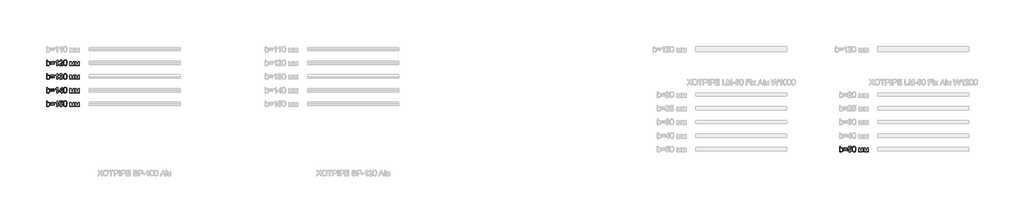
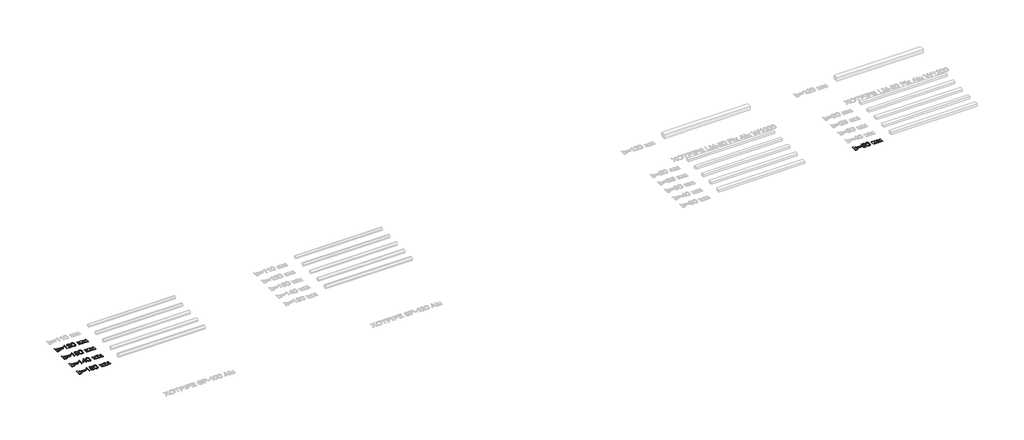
# One storey, part 71 of 86: 5 proxies.
"""IFC4 building model written with IfcOpenShell, lengths in millimetres."""

import ifcopenshell
import ifcopenshell.guid

model = None  # the IFC model being written
_history = None  # IfcOwnerHistory: only IFC2X3 demands one
_inside = {}  # id of a spatial element -> (the spatial element, [elements in it])
_under = {}  # id of a project, library or spatial element -> (it, [spatial elements below it])
_declared = {}  # id of a project -> (the project, [libraries it declares])
_typed = {}  # id of a type object -> (the type object, [elements of that type])
_made_of = {}  # id of a material, layer set ... -> (it, [elements and type objects made of it])


def new_model(schema):
    """Start an empty IFC model of exactly this schema.

    Asked for "IFC4X3", IfcOpenShell would pick the latest addendum, in which some entities
    have other attributes; the version numbers below select the first issue.
    IFC2X3 requires an IfcOwnerHistory on every rooted entity: one is made here for all.
    """
    global model, _history
    if schema == "IFC4X3":
        model = ifcopenshell.file(schema_version=(4, 3, 0, 0))
    else:
        model = ifcopenshell.file(schema=schema)
    _inside.clear()
    _under.clear()
    _declared.clear()
    _typed.clear()
    _made_of.clear()
    _history = None
    if model.schema == "IFC2X3":
        org = make("IfcOrganization", Name="unknown")
        user = make(
            "IfcPersonAndOrganization",
            ThePerson=make("IfcPerson", FamilyName="unknown"),
            TheOrganization=org,
        )
        app = make(
            "IfcApplication",
            ApplicationDeveloper=org,
            Version="unknown",
            ApplicationFullName="unknown",
            ApplicationIdentifier="unknown",
        )
        _history = make(
            "IfcOwnerHistory",
            OwningUser=user,
            OwningApplication=app,
            ChangeAction="ADDED",
            CreationDate=0,
        )
    return model


def make(cls, **values):
    """One entity of the class cls with the attributes given. An attribute that is None is left unset."""
    return model.create_entity(
        cls, **{name: value for name, value in values.items() if value is not None}
    )


def rooted(cls, **values):
    """An entity with a GlobalId (a new one), such as an element, a storey or a relation."""
    return make(cls, GlobalId=ifcopenshell.guid.new(), OwnerHistory=_history, **values)


def si_unit(unit_type, name, prefix=None):
    """IfcSIUnit, for example si_unit("LENGTHUNIT", "METRE", prefix="MILLI")."""
    return make("IfcSIUnit", UnitType=unit_type, Prefix=prefix, Name=name)


def assignment(units):
    """IfcUnitAssignment: the units of a project."""
    return None if units is None else make("IfcUnitAssignment", Units=units)


def point(xyz):
    """IfcCartesianPoint."""
    return None if xyz is None else make("IfcCartesianPoint", Coordinates=xyz)


def direction(xyz):
    """IfcDirection."""
    return None if xyz is None else make("IfcDirection", DirectionRatios=xyz)


def frame(location, z_axis=None, x_axis=None):
    """IfcAxis2Placement3D, a coordinate frame: its origin and axes. An axis left out is left unset."""
    return make(
        "IfcAxis2Placement3D",
        Location=point(location),
        Axis=direction(z_axis),
        RefDirection=direction(x_axis),
    )


def origin():
    """The frame at (0, 0, 0) with its axes left unset."""
    return frame((0.0, 0.0, 0.0))


def origin_with_axes():
    """The frame at (0, 0, 0) with the z axis (0, 0, 1) and the x axis (1, 0, 0) written out."""
    return frame((0.0, 0.0, 0.0), z_axis=(0.0, 0.0, 1.0), x_axis=(1.0, 0.0, 0.0))


def place(relative_to, where):
    """IfcLocalPlacement: puts the frame where relative to a parent placement (None: the world)."""
    return make(
        "IfcLocalPlacement", PlacementRelTo=relative_to, RelativePlacement=where
    )


def context(
    kind, dimensions, precision=None, world=None, true_north=None, identifier=None
):
    """IfcGeometricRepresentationContext, for example the 3D "Model" context."""
    return make(
        "IfcGeometricRepresentationContext",
        ContextIdentifier=identifier,
        ContextType=kind,
        CoordinateSpaceDimension=dimensions,
        Precision=precision,
        WorldCoordinateSystem=world,
        TrueNorth=true_north,
    )


def project(units=None, contexts=None):
    """IfcProject with its units and contexts."""
    return rooted(
        "IfcProject",
        Name="project",
        RepresentationContexts=contexts,
        UnitsInContext=assignment(units),
    )


def spatial(cls, under=None, at=None, **own):
    """A site, building, storey or space (cls), placed at a placement, below another one or the project."""
    s = rooted(cls, ObjectPlacement=at, **own)
    if under is not None:
        _under.setdefault(under.id(), (under, []))[1].append(s)
    return s


def polyline(points):
    """IfcPolyline through the points."""
    return make("IfcPolyline", Points=[point(p) for p in points])


def outline(outer, holes=None, kind="AREA"):
    """IfcArbitraryClosedProfileDef: a profile drawn as a closed curve; with holes, ...WithVoids."""
    if holes is None:
        return make("IfcArbitraryClosedProfileDef", ProfileType=kind, OuterCurve=outer)
    return make(
        "IfcArbitraryProfileDefWithVoids",
        ProfileType=kind,
        OuterCurve=outer,
        InnerCurves=holes,
    )


def extrude(swept, where, along, depth):
    """IfcExtrudedAreaSolid: the profile swept, set in the frame where, extruded along a direction by depth."""
    return make(
        "IfcExtrudedAreaSolid",
        SweptArea=swept,
        Position=where,
        ExtrudedDirection=direction(along),
        Depth=depth,
    )


def shape(context_of_items, identifier, shape_type, items):
    """IfcShapeRepresentation: the items that make up one representation, for example the "Body"."""
    return make(
        "IfcShapeRepresentation",
        ContextOfItems=context_of_items,
        RepresentationIdentifier=identifier,
        RepresentationType=shape_type,
        Items=items,
    )


def made_of(thing, what):
    """Note that an element or type object is made of a material, layer set ...; save() writes the relation."""
    if what is not None:
        _made_of.setdefault(what.id(), (what, []))[1].append(thing)
    return thing


def element(
    cls,
    number,
    at=None,
    inside=None,
    cuts=None,
    type_object=None,
    material=None,
    context=None,
    identifier="Body",
    shape_type=None,
    held_by="IfcProductDefinitionShape",
    body=None,
    shapes=None,
    **own,
):
    """One element of the class cls, such as IfcWall. Its Tag is "e" and its number.

    at: its placement. inside: the storey or other place that contains it. cuts: it is an
    opening in that element (IfcRelVoidsElement). A single representation is given by context,
    identifier, shape_type and body (its items); several are given by shapes. held_by: the class
    of the entity that holds the representations. save() writes the other relations.
    """
    e = rooted(cls, Tag="e%d" % number, ObjectPlacement=at, **own)
    if body is not None:
        shapes = [shape(context, identifier, shape_type, body)]
    if shapes is not None:
        e.Representation = make(held_by, Representations=shapes)
    if inside is not None:
        _inside.setdefault(inside.id(), (inside, []))[1].append(e)
    if cuts is not None:
        rooted(
            "IfcRelVoidsElement", RelatingBuildingElement=cuts, RelatedOpeningElement=e
        )
    if type_object is not None:
        _typed.setdefault(type_object.id(), (type_object, []))[1].append(e)
    return made_of(e, material)


def aggregate(whole, parts):
    """IfcRelAggregates: a whole, such as a stair, and the parts it consists of."""
    return rooted("IfcRelAggregates", RelatingObject=whole, RelatedObjects=parts)


def save(model, path):
    """Write the relations noted so far, then the file.

    IfcRelAggregates (storeys below a building ...), IfcRelContainedInSpatialStructure (elements
    in a storey), IfcRelDefinesByType, IfcRelAssociatesMaterial and IfcRelDeclares: one each for
    every whole, place, type object, material and project.
    """
    for whole, parts in _under.values():
        aggregate(whole, parts)
    for where, things in _inside.values():
        rooted(
            "IfcRelContainedInSpatialStructure",
            RelatedElements=things,
            RelatingStructure=where,
        )
    for kind, things in _typed.values():
        rooted("IfcRelDefinesByType", RelatedObjects=things, RelatingType=kind)
    for what, things in _made_of.values():
        rooted("IfcRelAssociatesMaterial", RelatedObjects=things, RelatingMaterial=what)
    for by, libraries in _declared.values():
        rooted("IfcRelDeclares", RelatingContext=by, RelatedDefinitions=libraries)
    model.write(path)


model = new_model("IFC4")

# Units and contexts
model_context = context("Model", 3, world=origin())
ifc_project = project(units=[si_unit("LENGTHUNIT", "METRE", prefix="MILLI")], contexts=[model_context])

# Site, building, storey
site = spatial("IfcSite", under=ifc_project)
building = spatial("IfcBuilding", under=site)
storey = spatial("IfcBuildingStorey", under=building, Name="Уровень 1", Elevation=0.0)

# Proxies
placement = place(None, origin())
element("IfcBuildingElementProxy", 1, Name="Текст модели 1", ObjectType="Текст модели 1", at=placement, inside=storey, context=model_context, shape_type="SweptSolid", body=[
    extrude(outline(polyline([(22698.159624, 72669.2937088), (22622.8173914, 72669.2937088), (22622.8173914, 73272.0315697), (22698.159624, 73272.0315697), (22698.159624, 73048.5064694), (22722.9364764, 73080.3742473), (22750.9139022, 73103.1369457), (22782.0919012, 73116.7945648), (22816.4704737, 73121.3471045), (22855.2820242, 73117.2452202), (22891.9598591, 73104.9395675), (22924.4070511, 73085.2026984), (22950.5266727, 73058.8071653), (22970.9993058, 73026.0104854), (22986.5055319, 72987.0701762), (22996.2727988, 72943.6049185), (22999.5285545, 72897.233393), (22996.1578357, 72843.7249568), (22986.0456794, 72796.6544555), (22969.1920855, 72756.0218892), (22945.597054, 72721.8272577), (22917.2747389, 72694.7235517), (22886.2392941, 72675.3637617), (22852.4907195, 72663.7478877), (22816.0290153, 72659.8759297), (22780.5192057, 72664.8699278), (22749.037704, 72679.8519221), (22721.5845101, 72704.8219125), (22698.159624, 72739.7798991), (22698.159624, 72669.2937088)]), holes=[polyline([(22698.159624, 72893.7017259), (22703.309972, 72830.8674811), (22709.7479069, 72807.065516), (22718.7610158, 72788.3403224), (22737.0171598, 72765.0993774), (22758.2347539, 72748.4987024), (22782.413798, 72738.5382973), (22809.5542922, 72735.2181623), (22832.0870644, 72737.6645776), (22853.037944, 72745.0038234), (22872.4069311, 72757.2358997), (22890.1940255, 72774.3608066), (22905.0656552, 72796.3325588), (22915.6882478, 72823.105171), (22922.0618034, 72854.6786432), (22924.1863219, 72891.0529755), (22922.1491753, 72928.1170865), (22916.0377357, 72959.9940614), (22905.8520029, 72986.6839001), (22891.5919771, 73008.1866028), (22874.4440776, 73024.7320955), (22855.5947239, 73036.5503046), (22835.0439159, 73043.64123), (22812.7916537, 73046.0048719), (22790.2588815, 73043.5584566), (22769.3080019, 73036.2192108), (22749.9390149, 73023.9871344), (22732.1519204, 73006.8622276), (22717.2802907, 72985.1112046), (22706.6576981, 72959.00078), (22700.2841426, 72928.5309538), (22698.159624, 72893.7017259)])]), origin_with_axes(), (0.0, 0.0, 1.0), 20.0),
    extrude(outline(polyline([(23470.4175083, 73017.7515346), (23074.8707871, 73017.7515346), (23074.8707871, 73093.0937672), (23470.4175083, 73093.0937672), (23470.4175083, 73017.7515346)])), origin_with_axes(), (0.0, 0.0, 1.0), 20.0),
    extrude(outline(polyline([(23470.4175083, 72838.8137322), (23074.8707871, 72838.8137322), (23074.8707871, 72914.1559648), (23470.4175083, 72914.1559648), (23470.4175083, 72838.8137322)])), origin_with_axes(), (0.0, 0.0, 1.0), 20.0),
    extrude(outline(polyline([(23837.7108923, 72669.2937088), (23762.3686597, 72669.2937088), (23762.3686597, 73139.0054402), (23730.9147491, 73113.5664003), (23690.9995526, 73088.1641485), (23649.0977934, 73065.9624701), (23611.6841945, 73050.1251502), (23611.6841945, 73121.3471045), (23670.8580134, 73153.5367791), (23722.1223694, 73191.8332947), (23762.5342066, 73232.5578316), (23789.1504689, 73272.0315697), (23837.7108923, 73272.0315697), (23837.7108923, 72669.2937088)])), origin_with_axes(), (0.0, 0.0, 1.0), 20.0),
    extrude(outline(polyline([(24402.7776369, 72744.6359414), (24402.7776369, 72669.2937088), (24007.2309157, 72669.2937088), (24008.8863847, 72695.8180007), (24015.3243196, 72721.2386465), (24033.9023603, 72761.8344247), (24061.0888398, 72801.2161923), (24100.4154251, 72842.4373698), (24155.4137833, 72888.5513779), (24236.7157043, 72960.7666136), (24285.4968568, 73014.0727147), (24299.724693, 73035.8513288), (24309.8874331, 73057.3356373), (24315.9850772, 73078.5256402), (24318.0176252, 73099.4213376), (24316.1000403, 73119.0800317), (24310.3472856, 73137.1476362), (24300.7593611, 73153.624151), (24287.3362668, 73168.5095763), (24270.8229638, 73180.8382216), (24251.964413, 73189.6443969), (24230.7606145, 73194.928102), (24207.2115683, 73196.6893371), (24182.4025262, 73194.9694888), (24160.2146434, 73189.8099438), (24140.6479198, 73181.2107021), (24123.7023554, 73169.1717638), (24109.9941525, 73154.0977991), (24100.1395136, 73136.3934781), (24094.1384385, 73116.0588008), (24091.9909274, 73093.0937672), (24016.6486948, 73102.5115463), (24023.1280164, 73141.4058703), (24034.9140358, 73175.3889696), (24052.006753, 73204.4608442), (24074.406168, 73228.6214943), (24101.597246, 73247.6134023), (24133.0649521, 73261.1790508), (24168.8092865, 73269.31844), (24208.830249, 73272.0315697), (24249.2098965, 73269.0149373), (24285.1473689, 73259.9650403), (24316.6426663, 73244.8818785), (24343.6957885, 73223.7654519), (24365.4238188, 73198.1792592), (24380.9438405, 73169.6867986), (24390.2558535, 73138.2880704), (24393.3598578, 73103.9830743), (24390.0121317, 73067.9490329), (24379.9689532, 73032.5403908), (24362.1450705, 72996.5247435), (24335.4552318, 72958.6696862), (24292.909679, 72913.4753831), (24227.5186544, 72855.4419984), (24140.8456563, 72782.9692453), (24106.85336, 72744.6359414), (24402.7776369, 72744.6359414)])), origin_with_axes(), (0.0, 0.0, 1.0), 20.0),
    extrude(outline(polyline([(24478.1198695, 72965.8065969), (24483.6564935, 73062.2836501), (24490.5772736, 73103.1967265), (24500.2663656, 73139.2261694), (24512.682383, 73170.6662845), (24527.7839389, 73197.8113772), (24545.5710333, 73220.6614476), (24566.0436664, 73239.2164957), (24589.2708158, 73253.5730906), (24615.3214596, 73263.8278012), (24644.1955977, 73269.9806276), (24675.8932301, 73272.0315697), (24722.3199379, 73267.1755274), (24763.8906034, 73252.6074004), (24798.6554519, 73228.8974058), (24824.664709, 73196.6157607), (24844.3096075, 73156.0383766), (24859.9813805, 73107.4411651), (24870.2452882, 73045.7289604), (24873.6665907, 72965.8065969), (24868.185149, 72869.8813667), (24861.3333468, 72829.106246), (24851.7408238, 72793.1227884), (24839.4213755, 72761.6688778), (24824.3887975, 72734.4823983), (24806.6430897, 72711.56335), (24786.1842523, 72692.9117329), (24762.9295116, 72678.458569), (24736.7960944, 72668.1348805), (24707.7840006, 72661.9406674), (24675.8932301, 72659.8759297), (24634.3961411, 72663.4627792), (24597.6079415, 72674.2233275), (24565.5286316, 72692.1575748), (24538.1582111, 72717.265521), (24511.8914367, 72762.6529621), (24493.1294549, 72819.2056218), (24481.8722659, 72886.9235001), (24478.1198695, 72965.8065969)]), holes=[polyline([(24553.4621021, 72965.9537497), (24555.6693941, 72900.456959), (24562.29127, 72847.440565), (24573.3277299, 72806.9045676), (24588.7787737, 72778.848967), (24607.467179, 72759.7604899), (24628.2157235, 72746.1258635), (24651.0244072, 72737.9450876), (24675.8932301, 72735.2181623), (24700.762053, 72737.9542847), (24723.5707367, 72746.1626517), (24744.3192812, 72759.8432634), (24763.0076866, 72778.9961198), (24778.4587304, 72807.0977057), (24789.4951902, 72847.624506), (24796.1170661, 72900.5765206), (24798.3243581, 72965.9537497), (24796.1906425, 73029.7168965), (24789.7894958, 73081.79979), (24779.120918, 73122.2024301), (24764.184909, 73150.9248169), (24745.8092033, 73170.9467945), (24724.8215355, 73185.248207), (24701.2219055, 73193.8290546), (24675.0103133, 73196.6893371), (24650.2702492, 73194.1693454), (24627.8478415, 73186.6093704), (24607.7430905, 73174.0094121), (24589.955996, 73156.3694704), (24573.9899175, 73125.0995008), (24562.5855756, 73082.9402242), (24555.7429705, 73029.8916405), (24553.4621021, 72965.9537497)])]), origin_with_axes(), (0.0, 0.0, 1.0), 20.0),
    extrude(outline(polyline([(25193.8710793, 73111.9293254), (25323.5126944, 73111.9293254), (25423.4294443, 72757.5853876), (25531.1452925, 73111.9293254), (25655.3422541, 73111.9293254), (25655.3422541, 72669.2937088), (25580.0000215, 72669.2937088), (25580.0000215, 73025.6977857), (25471.6955621, 72669.2937088), (25372.8088818, 72669.2937088), (25269.2133119, 73042.7675103), (25269.2133119, 72669.2937088), (25193.8710793, 72669.2937088), (25193.8710793, 73111.9293254)])), origin_with_axes(), (0.0, 0.0, 1.0), 20.0),
    extrude(outline(polyline([(25768.355603, 73111.9293254), (25897.9972181, 73111.9293254), (25997.913968, 72757.5853876), (26105.6298162, 73111.9293254), (26229.8267777, 73111.9293254), (26229.8267777, 72669.2937088), (26154.4845451, 72669.2937088), (26154.4845451, 73025.6977857), (26046.1800857, 72669.2937088), (25947.2934054, 72669.2937088), (25843.6978356, 73042.7675103), (25843.6978356, 72669.2937088), (25768.355603, 72669.2937088), (25768.355603, 73111.9293254)])), origin_with_axes(), (0.0, 0.0, 1.0), 20.0),
])
element("IfcBuildingElementProxy", 2, Name="Текст модели 1", ObjectType="Текст модели 1", at=placement, inside=storey, context=model_context, shape_type="SweptSolid", body=[
    extrude(outline(polyline([(22698.159624, 71169.2937088), (22622.8173914, 71169.2937088), (22622.8173914, 71772.0315697), (22698.159624, 71772.0315697), (22698.159624, 71548.5064694), (22722.9364764, 71580.3742473), (22750.9139022, 71603.1369457), (22782.0919012, 71616.7945648), (22816.4704737, 71621.3471045), (22855.2820242, 71617.2452202), (22891.9598591, 71604.9395675), (22924.4070511, 71585.2026984), (22950.5266727, 71558.8071653), (22970.9993058, 71526.0104854), (22986.5055319, 71487.0701762), (22996.2727988, 71443.6049185), (22999.5285545, 71397.233393), (22996.1578357, 71343.7249568), (22986.0456794, 71296.6544555), (22969.1920855, 71256.0218892), (22945.597054, 71221.8272577), (22917.2747389, 71194.7235517), (22886.2392941, 71175.3637617), (22852.4907195, 71163.7478877), (22816.0290153, 71159.8759297), (22780.5192057, 71164.8699278), (22749.037704, 71179.8519221), (22721.5845101, 71204.8219125), (22698.159624, 71239.7798991), (22698.159624, 71169.2937088)]), holes=[polyline([(22698.159624, 71393.7017259), (22703.309972, 71330.8674811), (22709.7479069, 71307.065516), (22718.7610158, 71288.3403224), (22737.0171598, 71265.0993774), (22758.2347539, 71248.4987024), (22782.413798, 71238.5382973), (22809.5542922, 71235.2181623), (22832.0870644, 71237.6645776), (22853.037944, 71245.0038234), (22872.4069311, 71257.2358997), (22890.1940255, 71274.3608066), (22905.0656552, 71296.3325588), (22915.6882478, 71323.105171), (22922.0618034, 71354.6786432), (22924.1863219, 71391.0529755), (22922.1491753, 71428.1170865), (22916.0377357, 71459.9940614), (22905.8520029, 71486.6839001), (22891.5919771, 71508.1866028), (22874.4440776, 71524.7320955), (22855.5947239, 71536.5503046), (22835.0439159, 71543.64123), (22812.7916537, 71546.0048719), (22790.2588815, 71543.5584566), (22769.3080019, 71536.2192108), (22749.9390149, 71523.9871344), (22732.1519204, 71506.8622276), (22717.2802907, 71485.1112046), (22706.6576981, 71459.00078), (22700.2841426, 71428.5309538), (22698.159624, 71393.7017259)])]), origin_with_axes(), (0.0, 0.0, 1.0), 20.0),
    extrude(outline(polyline([(23470.4175083, 71517.7515346), (23074.8707871, 71517.7515346), (23074.8707871, 71593.0937672), (23470.4175083, 71593.0937672), (23470.4175083, 71517.7515346)])), origin_with_axes(), (0.0, 0.0, 1.0), 20.0),
    extrude(outline(polyline([(23470.4175083, 71338.8137322), (23074.8707871, 71338.8137322), (23074.8707871, 71414.1559648), (23470.4175083, 71414.1559648), (23470.4175083, 71338.8137322)])), origin_with_axes(), (0.0, 0.0, 1.0), 20.0),
    extrude(outline(polyline([(23837.7108923, 71169.2937088), (23762.3686597, 71169.2937088), (23762.3686597, 71639.0054402), (23730.9147491, 71613.5664003), (23690.9995526, 71588.1641485), (23649.0977934, 71565.9624701), (23611.6841945, 71550.1251502), (23611.6841945, 71621.3471045), (23670.8580134, 71653.5367791), (23722.1223694, 71691.8332947), (23762.5342066, 71732.5578316), (23789.1504689, 71772.0315697), (23837.7108923, 71772.0315697), (23837.7108923, 71169.2937088)])), origin_with_axes(), (0.0, 0.0, 1.0), 20.0),
    extrude(outline(polyline([(24016.6486948, 71329.3959531), (24091.9909274, 71338.8137322), (24108.8583168, 71291.4673194), (24120.230469, 71273.5606633), (24133.5615928, 71259.498374), (24149.1551909, 71248.8757814), (24167.3147659, 71241.2882153), (24188.0403178, 71236.7356756), (24211.3318466, 71235.2181623), (24238.6286906, 71237.3058927), (24262.9824787, 71243.5690836), (24284.3932108, 71254.0077352), (24302.860887, 71268.6218475), (24317.7325167, 71286.3169715), (24328.3551093, 71305.9986582), (24334.7286648, 71327.6669077), (24336.8531834, 71351.32172), (24334.7470589, 71373.8498937), (24328.4286857, 71394.3455193), (24317.8980636, 71412.808597), (24303.1551926, 71429.2391266), (24285.165763, 71442.7266002), (24264.8954651, 71452.36051), (24242.3442988, 71458.1408558), (24217.5122641, 71460.0676378), (24193.710299, 71458.0074986), (24164.6844096, 71451.8270811), (24173.0721191, 71527.1693137), (24185.1386485, 71526.2863969), (24230.2777694, 71531.6942622), (24270.6344242, 71547.9178582), (24287.2442963, 71560.1867228), (24299.1084907, 71575.3618551), (24306.2270073, 71593.4432551), (24308.5998461, 71614.430923), (24306.8799978, 71631.4684579), (24301.7204528, 71646.9700854), (24293.1212112, 71660.9358057), (24281.0822729, 71673.3656186), (24266.3302049, 71683.5697454), (24249.5915741, 71690.8584075), (24210.1546242, 71696.6893371), (24189.4980502, 71695.2178091), (24170.6440979, 71690.8032252), (24153.5927675, 71683.4455853), (24138.3440588, 71673.1448894), (24125.2750509, 71659.9011376), (24114.7628229, 71643.7143298), (24106.8073747, 71624.584466), (24101.4087064, 71602.5115463), (24026.0664738, 71611.9293254), (24034.9968093, 71647.8989875), (24048.2497581, 71679.5828243), (24065.8253205, 71706.9808359), (24087.7234962, 71730.0930222), (24113.2545067, 71748.4411368), (24141.7285731, 71761.5469328), (24173.1456955, 71769.4104105), (24207.5058739, 71772.0315697), (24254.8706807, 71766.8628277), (24298.3727267, 71751.3566016), (24335.0505616, 71726.8924489), (24361.9427354, 71694.8499271), (24378.4422429, 71657.9329689), (24383.9420787, 71618.8455069), (24378.7181544, 71582.4251894), (24363.0463814, 71549.3893862), (24337.147489, 71521.2464136), (24301.2422062, 71499.5045877), (24326.3501524, 71491.6503071), (24348.404678, 71480.4483003), (24367.4057831, 71465.8985674), (24383.3534676, 71448.0011083), (24395.97182, 71427.1973815), (24404.9849289, 71403.9288453), (24410.3927942, 71378.1954998), (24412.195416, 71349.9973448), (24408.5901724, 71311.7744055), (24397.7744418, 71276.5680986), (24379.748224, 71244.378424), (24354.5115191, 71215.2053818), (24323.7657814, 71190.9987465), (24289.212465, 71173.7082927), (24250.8515699, 71163.3340205), (24208.6830962, 71159.8759297), (24170.5705215, 71162.8281827), (24135.8424612, 71171.6849418), (24104.4989152, 71186.4462068), (24076.5398836, 71207.1119779), (24053.0966034, 71232.4682444), (24035.3003119, 71261.3009958), (24023.151009, 71293.610232), (24016.6486948, 71329.3959531)])), origin_with_axes(), (0.0, 0.0, 1.0), 20.0),
    extrude(outline(polyline([(24478.1198695, 71465.8065969), (24483.6564935, 71562.2836501), (24490.5772736, 71603.1967265), (24500.2663656, 71639.2261694), (24512.682383, 71670.6662845), (24527.7839389, 71697.8113772), (24545.5710333, 71720.6614476), (24566.0436664, 71739.2164957), (24589.2708158, 71753.5730906), (24615.3214596, 71763.8278012), (24644.1955977, 71769.9806276), (24675.8932301, 71772.0315697), (24722.3199379, 71767.1755274), (24763.8906034, 71752.6074004), (24798.6554519, 71728.8974058), (24824.664709, 71696.6157607), (24844.3096075, 71656.0383766), (24859.9813805, 71607.4411651), (24870.2452882, 71545.7289604), (24873.6665907, 71465.8065969), (24868.185149, 71369.8813667), (24861.3333468, 71329.106246), (24851.7408238, 71293.1227884), (24839.4213755, 71261.6688778), (24824.3887975, 71234.4823983), (24806.6430897, 71211.56335), (24786.1842523, 71192.9117329), (24762.9295116, 71178.458569), (24736.7960944, 71168.1348805), (24707.7840006, 71161.9406674), (24675.8932301, 71159.8759297), (24634.3961411, 71163.4627792), (24597.6079415, 71174.2233275), (24565.5286316, 71192.1575748), (24538.1582111, 71217.265521), (24511.8914367, 71262.6529621), (24493.1294549, 71319.2056218), (24481.8722659, 71386.9235001), (24478.1198695, 71465.8065969)]), holes=[polyline([(24553.4621021, 71465.9537497), (24555.6693941, 71400.456959), (24562.29127, 71347.440565), (24573.3277299, 71306.9045676), (24588.7787737, 71278.848967), (24607.467179, 71259.7604899), (24628.2157235, 71246.1258635), (24651.0244072, 71237.9450876), (24675.8932301, 71235.2181623), (24700.762053, 71237.9542847), (24723.5707367, 71246.1626517), (24744.3192812, 71259.8432634), (24763.0076866, 71278.9961198), (24778.4587304, 71307.0977057), (24789.4951902, 71347.624506), (24796.1170661, 71400.5765206), (24798.3243581, 71465.9537497), (24796.1906425, 71529.7168965), (24789.7894958, 71581.79979), (24779.120918, 71622.2024301), (24764.184909, 71650.9248169), (24745.8092033, 71670.9467945), (24724.8215355, 71685.248207), (24701.2219055, 71693.8290546), (24675.0103133, 71696.6893371), (24650.2702492, 71694.1693454), (24627.8478415, 71686.6093704), (24607.7430905, 71674.0094121), (24589.955996, 71656.3694704), (24573.9899175, 71625.0995008), (24562.5855756, 71582.9402242), (24555.7429705, 71529.8916405), (24553.4621021, 71465.9537497)])]), origin_with_axes(), (0.0, 0.0, 1.0), 20.0),
    extrude(outline(polyline([(25193.8710793, 71611.9293254), (25323.5126944, 71611.9293254), (25423.4294443, 71257.5853876), (25531.1452925, 71611.9293254), (25655.3422541, 71611.9293254), (25655.3422541, 71169.2937088), (25580.0000215, 71169.2937088), (25580.0000215, 71525.6977857), (25471.6955621, 71169.2937088), (25372.8088818, 71169.2937088), (25269.2133119, 71542.7675103), (25269.2133119, 71169.2937088), (25193.8710793, 71169.2937088), (25193.8710793, 71611.9293254)])), origin_with_axes(), (0.0, 0.0, 1.0), 20.0),
    extrude(outline(polyline([(25768.355603, 71611.9293254), (25897.9972181, 71611.9293254), (25997.913968, 71257.5853876), (26105.6298162, 71611.9293254), (26229.8267777, 71611.9293254), (26229.8267777, 71169.2937088), (26154.4845451, 71169.2937088), (26154.4845451, 71525.6977857), (26046.1800857, 71169.2937088), (25947.2934054, 71169.2937088), (25843.6978356, 71542.7675103), (25843.6978356, 71169.2937088), (25768.355603, 71169.2937088), (25768.355603, 71611.9293254)])), origin_with_axes(), (0.0, 0.0, 1.0), 20.0),
])
element("IfcBuildingElementProxy", 3, Name="Текст модели 1", ObjectType="Текст модели 1", at=placement, inside=storey, context=model_context, shape_type="SweptSolid", body=[
    extrude(outline(polyline([(22698.159624, 69669.2937088), (22622.8173914, 69669.2937088), (22622.8173914, 70272.0315697), (22698.159624, 70272.0315697), (22698.159624, 70048.5064694), (22722.9364764, 70080.3742473), (22750.9139022, 70103.1369457), (22782.0919012, 70116.7945648), (22816.4704737, 70121.3471045), (22855.2820242, 70117.2452202), (22891.9598591, 70104.9395675), (22924.4070511, 70085.2026984), (22950.5266727, 70058.8071653), (22970.9993058, 70026.0104854), (22986.5055319, 69987.0701762), (22996.2727988, 69943.6049185), (22999.5285545, 69897.233393), (22996.1578357, 69843.7249568), (22986.0456794, 69796.6544555), (22969.1920855, 69756.0218892), (22945.597054, 69721.8272577), (22917.2747389, 69694.7235517), (22886.2392941, 69675.3637617), (22852.4907195, 69663.7478877), (22816.0290153, 69659.8759297), (22780.5192057, 69664.8699278), (22749.037704, 69679.8519221), (22721.5845101, 69704.8219125), (22698.159624, 69739.7798991), (22698.159624, 69669.2937088)]), holes=[polyline([(22698.159624, 69893.7017259), (22703.309972, 69830.8674811), (22709.7479069, 69807.065516), (22718.7610158, 69788.3403224), (22737.0171598, 69765.0993774), (22758.2347539, 69748.4987024), (22782.413798, 69738.5382973), (22809.5542922, 69735.2181623), (22832.0870644, 69737.6645776), (22853.037944, 69745.0038234), (22872.4069311, 69757.2358997), (22890.1940255, 69774.3608066), (22905.0656552, 69796.3325588), (22915.6882478, 69823.105171), (22922.0618034, 69854.6786432), (22924.1863219, 69891.0529755), (22922.1491753, 69928.1170865), (22916.0377357, 69959.9940614), (22905.8520029, 69986.6839001), (22891.5919771, 70008.1866028), (22874.4440776, 70024.7320955), (22855.5947239, 70036.5503046), (22835.0439159, 70043.64123), (22812.7916537, 70046.0048719), (22790.2588815, 70043.5584566), (22769.3080019, 70036.2192108), (22749.9390149, 70023.9871344), (22732.1519204, 70006.8622276), (22717.2802907, 69985.1112046), (22706.6576981, 69959.00078), (22700.2841426, 69928.5309538), (22698.159624, 69893.7017259)])]), origin_with_axes(), (0.0, 0.0, 1.0), 20.0),
    extrude(outline(polyline([(23470.4175083, 70017.7515346), (23074.8707871, 70017.7515346), (23074.8707871, 70093.0937672), (23470.4175083, 70093.0937672), (23470.4175083, 70017.7515346)])), origin_with_axes(), (0.0, 0.0, 1.0), 20.0),
    extrude(outline(polyline([(23470.4175083, 69838.8137322), (23074.8707871, 69838.8137322), (23074.8707871, 69914.1559648), (23470.4175083, 69914.1559648), (23470.4175083, 69838.8137322)])), origin_with_axes(), (0.0, 0.0, 1.0), 20.0),
    extrude(outline(polyline([(23837.7108923, 69669.2937088), (23762.3686597, 69669.2937088), (23762.3686597, 70139.0054402), (23730.9147491, 70113.5664003), (23690.9995526, 70088.1641485), (23649.0977934, 70065.9624701), (23611.6841945, 70050.1251502), (23611.6841945, 70121.3471045), (23670.8580134, 70153.5367791), (23722.1223694, 70191.8332947), (23762.5342066, 70232.5578316), (23789.1504689, 70272.0315697), (23837.7108923, 70272.0315697), (23837.7108923, 69669.2937088)])), origin_with_axes(), (0.0, 0.0, 1.0), 20.0),
    extrude(outline(polyline([(24261.5109507, 69669.2937088), (24261.5109507, 69810.5603949), (23988.3953575, 69810.5603949), (23988.3953575, 69885.9026276), (24280.3465089, 70262.6137906), (24336.8531834, 70262.6137906), (24336.8531834, 69885.9026276), (24412.195416, 69885.9026276), (24412.195416, 69810.5603949), (24336.8531834, 69810.5603949), (24336.8531834, 69669.2937088), (24261.5109507, 69669.2937088)]), holes=[polyline([(24261.5109507, 69885.9026276), (24261.5109507, 70118.6983541), (24081.1016203, 69885.9026276), (24261.5109507, 69885.9026276)])]), origin_with_axes(), (0.0, 0.0, 1.0), 20.0),
    extrude(outline(polyline([(24478.1198695, 69965.8065969), (24483.6564935, 70062.2836501), (24490.5772736, 70103.1967265), (24500.2663656, 70139.2261694), (24512.682383, 70170.6662845), (24527.7839389, 70197.8113772), (24545.5710333, 70220.6614476), (24566.0436664, 70239.2164957), (24589.2708158, 70253.5730906), (24615.3214596, 70263.8278012), (24644.1955977, 70269.9806276), (24675.8932301, 70272.0315697), (24722.3199379, 70267.1755274), (24763.8906034, 70252.6074004), (24798.6554519, 70228.8974058), (24824.664709, 70196.6157607), (24844.3096075, 70156.0383766), (24859.9813805, 70107.4411651), (24870.2452882, 70045.7289604), (24873.6665907, 69965.8065969), (24868.185149, 69869.8813667), (24861.3333468, 69829.106246), (24851.7408238, 69793.1227884), (24839.4213755, 69761.6688778), (24824.3887975, 69734.4823983), (24806.6430897, 69711.56335), (24786.1842523, 69692.9117329), (24762.9295116, 69678.458569), (24736.7960944, 69668.1348805), (24707.7840006, 69661.9406674), (24675.8932301, 69659.8759297), (24634.3961411, 69663.4627792), (24597.6079415, 69674.2233275), (24565.5286316, 69692.1575748), (24538.1582111, 69717.265521), (24511.8914367, 69762.6529621), (24493.1294549, 69819.2056218), (24481.8722659, 69886.9235001), (24478.1198695, 69965.8065969)]), holes=[polyline([(24553.4621021, 69965.9537497), (24555.6693941, 69900.456959), (24562.29127, 69847.440565), (24573.3277299, 69806.9045676), (24588.7787737, 69778.848967), (24607.467179, 69759.7604899), (24628.2157235, 69746.1258635), (24651.0244072, 69737.9450876), (24675.8932301, 69735.2181623), (24700.762053, 69737.9542847), (24723.5707367, 69746.1626517), (24744.3192812, 69759.8432634), (24763.0076866, 69778.9961198), (24778.4587304, 69807.0977057), (24789.4951902, 69847.624506), (24796.1170661, 69900.5765206), (24798.3243581, 69965.9537497), (24796.1906425, 70029.7168965), (24789.7894958, 70081.79979), (24779.120918, 70122.2024301), (24764.184909, 70150.9248169), (24745.8092033, 70170.9467945), (24724.8215355, 70185.248207), (24701.2219055, 70193.8290546), (24675.0103133, 70196.6893371), (24650.2702492, 70194.1693454), (24627.8478415, 70186.6093704), (24607.7430905, 70174.0094121), (24589.955996, 70156.3694704), (24573.9899175, 70125.0995008), (24562.5855756, 70082.9402242), (24555.7429705, 70029.8916405), (24553.4621021, 69965.9537497)])]), origin_with_axes(), (0.0, 0.0, 1.0), 20.0),
    extrude(outline(polyline([(25193.8710793, 70111.9293254), (25323.5126944, 70111.9293254), (25423.4294443, 69757.5853876), (25531.1452925, 70111.9293254), (25655.3422541, 70111.9293254), (25655.3422541, 69669.2937088), (25580.0000215, 69669.2937088), (25580.0000215, 70025.6977857), (25471.6955621, 69669.2937088), (25372.8088818, 69669.2937088), (25269.2133119, 70042.7675103), (25269.2133119, 69669.2937088), (25193.8710793, 69669.2937088), (25193.8710793, 70111.9293254)])), origin_with_axes(), (0.0, 0.0, 1.0), 20.0),
    extrude(outline(polyline([(25768.355603, 70111.9293254), (25897.9972181, 70111.9293254), (25997.913968, 69757.5853876), (26105.6298162, 70111.9293254), (26229.8267777, 70111.9293254), (26229.8267777, 69669.2937088), (26154.4845451, 69669.2937088), (26154.4845451, 70025.6977857), (26046.1800857, 69669.2937088), (25947.2934054, 69669.2937088), (25843.6978356, 70042.7675103), (25843.6978356, 69669.2937088), (25768.355603, 69669.2937088), (25768.355603, 70111.9293254)])), origin_with_axes(), (0.0, 0.0, 1.0), 20.0),
])
element("IfcBuildingElementProxy", 4, Name="Текст модели 1", ObjectType="Текст модели 1", at=placement, inside=storey, context=model_context, shape_type="SweptSolid", body=[
    extrude(outline(polyline([(22698.159624, 68169.2937088), (22622.8173914, 68169.2937088), (22622.8173914, 68772.0315697), (22698.159624, 68772.0315697), (22698.159624, 68548.5064694), (22722.9364764, 68580.3742473), (22750.9139022, 68603.1369457), (22782.0919012, 68616.7945648), (22816.4704737, 68621.3471045), (22855.2820242, 68617.2452202), (22891.9598591, 68604.9395675), (22924.4070511, 68585.2026984), (22950.5266727, 68558.8071653), (22970.9993058, 68526.0104854), (22986.5055319, 68487.0701762), (22996.2727988, 68443.6049185), (22999.5285545, 68397.233393), (22996.1578357, 68343.7249568), (22986.0456794, 68296.6544555), (22969.1920855, 68256.0218892), (22945.597054, 68221.8272577), (22917.2747389, 68194.7235517), (22886.2392941, 68175.3637617), (22852.4907195, 68163.7478877), (22816.0290153, 68159.8759297), (22780.5192057, 68164.8699278), (22749.037704, 68179.8519221), (22721.5845101, 68204.8219125), (22698.159624, 68239.7798991), (22698.159624, 68169.2937088)]), holes=[polyline([(22698.159624, 68393.7017259), (22703.309972, 68330.8674811), (22709.7479069, 68307.065516), (22718.7610158, 68288.3403224), (22737.0171598, 68265.0993774), (22758.2347539, 68248.4987024), (22782.413798, 68238.5382973), (22809.5542922, 68235.2181623), (22832.0870644, 68237.6645776), (22853.037944, 68245.0038234), (22872.4069311, 68257.2358997), (22890.1940255, 68274.3608066), (22905.0656552, 68296.3325588), (22915.6882478, 68323.105171), (22922.0618034, 68354.6786432), (22924.1863219, 68391.0529755), (22922.1491753, 68428.1170865), (22916.0377357, 68459.9940614), (22905.8520029, 68486.6839001), (22891.5919771, 68508.1866028), (22874.4440776, 68524.7320955), (22855.5947239, 68536.5503046), (22835.0439159, 68543.64123), (22812.7916537, 68546.0048719), (22790.2588815, 68543.5584566), (22769.3080019, 68536.2192108), (22749.9390149, 68523.9871344), (22732.1519204, 68506.8622276), (22717.2802907, 68485.1112046), (22706.6576981, 68459.00078), (22700.2841426, 68428.5309538), (22698.159624, 68393.7017259)])]), origin_with_axes(), (0.0, 0.0, 1.0), 20.0),
    extrude(outline(polyline([(23470.4175083, 68517.7515346), (23074.8707871, 68517.7515346), (23074.8707871, 68593.0937672), (23470.4175083, 68593.0937672), (23470.4175083, 68517.7515346)])), origin_with_axes(), (0.0, 0.0, 1.0), 20.0),
    extrude(outline(polyline([(23470.4175083, 68338.8137322), (23074.8707871, 68338.8137322), (23074.8707871, 68414.1559648), (23470.4175083, 68414.1559648), (23470.4175083, 68338.8137322)])), origin_with_axes(), (0.0, 0.0, 1.0), 20.0),
    extrude(outline(polyline([(23837.7108923, 68169.2937088), (23762.3686597, 68169.2937088), (23762.3686597, 68639.0054402), (23730.9147491, 68613.5664003), (23690.9995526, 68588.1641485), (23649.0977934, 68565.9624701), (23611.6841945, 68550.1251502), (23611.6841945, 68621.3471045), (23670.8580134, 68653.5367791), (23722.1223694, 68691.8332947), (23762.5342066, 68732.5578316), (23789.1504689, 68772.0315697), (23837.7108923, 68772.0315697), (23837.7108923, 68169.2937088)])), origin_with_axes(), (0.0, 0.0, 1.0), 20.0),
    extrude(outline(polyline([(24016.6486948, 68329.3959531), (24091.9909274, 68338.8137322), (24097.6195219, 68314.5933013), (24105.8232904, 68293.5826409), (24116.6022328, 68275.7817508), (24129.9563493, 68261.1906312), (24145.8580485, 68249.8276761), (24164.2797394, 68241.7112795), (24185.221422, 68236.8414416), (24208.6830962, 68235.2181623), (24237.3778919, 68237.4760381), (24262.6881731, 68244.2496653), (24284.61394, 68255.539044), (24303.1551926, 68271.3441743), (24317.8980636, 68290.8833067), (24328.4286857, 68313.3746922), (24334.7470589, 68338.8183307), (24336.8531834, 68367.2142222), (24334.8804162, 68394.0512138), (24328.9621146, 68417.9083611), (24319.0982786, 68438.7856644), (24305.2889082, 68456.6831234), (24287.4880181, 68471.0397183), (24265.6496232, 68481.2944289), (24239.7737234, 68487.4472553), (24209.8603186, 68489.4981974), (24173.3112424, 68486.2240476), (24143.7151359, 68476.4015984), (24120.0787177, 68461.3552248), (24101.4087064, 68442.409302), (24026.0664738, 68451.8270811), (24091.9909274, 68762.6137906), (24383.9420787, 68762.6137906), (24383.9420787, 68687.271558), (24152.9121858, 68687.271558), (24120.685723, 68521.2832018), (24147.2743942, 68540.3394891), (24174.5068589, 68553.951123), (24202.3831171, 68562.1181032), (24230.9031687, 68564.84043), (24267.5947992, 68561.4651127), (24301.2973885, 68551.3391608), (24332.0109366, 68534.4625743), (24359.7354435, 68510.8353531), (24382.6866814, 68481.9014342), (24399.0804228, 68449.1047543), (24408.9166677, 68412.4453135), (24412.195416, 68371.9231117), (24409.243163, 68332.8908321), (24400.3864039, 68296.5808791), (24385.6251389, 68262.993253), (24364.9593678, 68232.1279536), (24333.65261, 68200.5176931), (24297.1219279, 68177.9389357), (24255.3673214, 68164.3916812), (24208.3887906, 68159.8759297), (24169.5082623, 68162.777599), (24134.3893273, 68171.4826067), (24103.0319858, 68185.9909529), (24075.4362376, 68206.3026375), (24052.4758026, 68231.4059852), (24035.0244004, 68260.2893203), (24023.0820311, 68292.952643), (24016.6486948, 68329.3959531)])), origin_with_axes(), (0.0, 0.0, 1.0), 20.0),
    extrude(outline(polyline([(24478.1198695, 68465.8065969), (24483.6564935, 68562.2836501), (24490.5772736, 68603.1967265), (24500.2663656, 68639.2261694), (24512.682383, 68670.6662845), (24527.7839389, 68697.8113772), (24545.5710333, 68720.6614476), (24566.0436664, 68739.2164957), (24589.2708158, 68753.5730906), (24615.3214596, 68763.8278012), (24644.1955977, 68769.9806276), (24675.8932301, 68772.0315697), (24722.3199379, 68767.1755274), (24763.8906034, 68752.6074004), (24798.6554519, 68728.8974058), (24824.664709, 68696.6157607), (24844.3096075, 68656.0383766), (24859.9813805, 68607.4411651), (24870.2452882, 68545.7289604), (24873.6665907, 68465.8065969), (24868.185149, 68369.8813667), (24861.3333468, 68329.106246), (24851.7408238, 68293.1227884), (24839.4213755, 68261.6688778), (24824.3887975, 68234.4823983), (24806.6430897, 68211.56335), (24786.1842523, 68192.9117329), (24762.9295116, 68178.458569), (24736.7960944, 68168.1348805), (24707.7840006, 68161.9406674), (24675.8932301, 68159.8759297), (24634.3961411, 68163.4627792), (24597.6079415, 68174.2233275), (24565.5286316, 68192.1575748), (24538.1582111, 68217.265521), (24511.8914367, 68262.6529621), (24493.1294549, 68319.2056218), (24481.8722659, 68386.9235001), (24478.1198695, 68465.8065969)]), holes=[polyline([(24553.4621021, 68465.9537497), (24555.6693941, 68400.456959), (24562.29127, 68347.440565), (24573.3277299, 68306.9045676), (24588.7787737, 68278.848967), (24607.467179, 68259.7604899), (24628.2157235, 68246.1258635), (24651.0244072, 68237.9450876), (24675.8932301, 68235.2181623), (24700.762053, 68237.9542847), (24723.5707367, 68246.1626517), (24744.3192812, 68259.8432634), (24763.0076866, 68278.9961198), (24778.4587304, 68307.0977057), (24789.4951902, 68347.624506), (24796.1170661, 68400.5765206), (24798.3243581, 68465.9537497), (24796.1906425, 68529.7168965), (24789.7894958, 68581.79979), (24779.120918, 68622.2024301), (24764.184909, 68650.9248169), (24745.8092033, 68670.9467945), (24724.8215355, 68685.248207), (24701.2219055, 68693.8290546), (24675.0103133, 68696.6893371), (24650.2702492, 68694.1693454), (24627.8478415, 68686.6093704), (24607.7430905, 68674.0094121), (24589.955996, 68656.3694704), (24573.9899175, 68625.0995008), (24562.5855756, 68582.9402242), (24555.7429705, 68529.8916405), (24553.4621021, 68465.9537497)])]), origin_with_axes(), (0.0, 0.0, 1.0), 20.0),
    extrude(outline(polyline([(25193.8710793, 68611.9293254), (25323.5126944, 68611.9293254), (25423.4294443, 68257.5853876), (25531.1452925, 68611.9293254), (25655.3422541, 68611.9293254), (25655.3422541, 68169.2937088), (25580.0000215, 68169.2937088), (25580.0000215, 68525.6977857), (25471.6955621, 68169.2937088), (25372.8088818, 68169.2937088), (25269.2133119, 68542.7675103), (25269.2133119, 68169.2937088), (25193.8710793, 68169.2937088), (25193.8710793, 68611.9293254)])), origin_with_axes(), (0.0, 0.0, 1.0), 20.0),
    extrude(outline(polyline([(25768.355603, 68611.9293254), (25897.9972181, 68611.9293254), (25997.913968, 68257.5853876), (26105.6298162, 68611.9293254), (26229.8267777, 68611.9293254), (26229.8267777, 68169.2937088), (26154.4845451, 68169.2937088), (26154.4845451, 68525.6977857), (26046.1800857, 68169.2937088), (25947.2934054, 68169.2937088), (25843.6978356, 68542.7675103), (25843.6978356, 68169.2937088), (25768.355603, 68169.2937088), (25768.355603, 68611.9293254)])), origin_with_axes(), (0.0, 0.0, 1.0), 20.0),
])
element("IfcBuildingElementProxy", 5, Name="Текст модели 1", ObjectType="Текст модели 1", at=placement, inside=storey, context=model_context, shape_type="SweptSolid", body=[
    extrude(outline(polyline([(109771.0068445, 63169.2937088), (109695.6646119, 63169.2937088), (109695.6646119, 63772.0315697), (109771.0068445, 63772.0315697), (109771.0068445, 63548.5064694), (109795.7836969, 63580.3742473), (109823.7611226, 63603.1369457), (109854.9391217, 63616.7945648), (109889.3176942, 63621.3471045), (109928.1292447, 63617.2452202), (109964.8070796, 63604.9395675), (109997.2542716, 63585.2026984), (110023.3738932, 63558.8071653), (110043.8465263, 63526.0104854), (110059.3527524, 63487.0701762), (110069.1200193, 63443.6049185), (110072.375775, 63397.233393), (110069.0050562, 63343.7249568), (110058.8928999, 63296.6544555), (110042.039306, 63256.0218892), (110018.4442745, 63221.8272577), (109990.1219594, 63194.7235517), (109959.0865146, 63175.3637617), (109925.33794, 63163.7478877), (109888.8762358, 63159.8759297), (109853.3664262, 63164.8699278), (109821.8849245, 63179.8519221), (109794.4317306, 63204.8219125), (109771.0068445, 63239.7798991), (109771.0068445, 63169.2937088)]), holes=[polyline([(109771.0068445, 63393.7017259), (109776.1571925, 63330.8674811), (109782.5951274, 63307.065516), (109791.6082363, 63288.3403224), (109809.8643803, 63265.0993774), (109831.0819744, 63248.4987024), (109855.2610185, 63238.5382973), (109882.4015127, 63235.2181623), (109904.9342849, 63237.6645776), (109925.8851645, 63245.0038234), (109945.2541516, 63257.2358997), (109963.041246, 63274.3608066), (109977.9128757, 63296.3325588), (109988.5354683, 63323.105171), (109994.9090239, 63354.6786432), (109997.0335424, 63391.0529755), (109994.9963958, 63428.1170865), (109988.8849562, 63459.9940614), (109978.6992234, 63486.6839001), (109964.4391976, 63508.1866028), (109947.2912981, 63524.7320955), (109928.4419444, 63536.5503046), (109907.8911364, 63543.64123), (109885.6388742, 63546.0048719), (109863.106102, 63543.5584566), (109842.1552224, 63536.2192108), (109822.7862354, 63523.9871344), (109804.9991409, 63506.8622276), (109790.1275112, 63485.1112046), (109779.5049186, 63459.00078), (109773.1313631, 63428.5309538), (109771.0068445, 63393.7017259)])]), origin_with_axes(), (0.0, 0.0, 1.0), 20.0),
    extrude(outline(polyline([(110543.2647288, 63517.7515346), (110147.7180076, 63517.7515346), (110147.7180076, 63593.0937672), (110543.2647288, 63593.0937672), (110543.2647288, 63517.7515346)])), origin_with_axes(), (0.0, 0.0, 1.0), 20.0),
    extrude(outline(polyline([(110543.2647288, 63338.8137322), (110147.7180076, 63338.8137322), (110147.7180076, 63414.1559648), (110543.2647288, 63414.1559648), (110543.2647288, 63338.8137322)])), origin_with_axes(), (0.0, 0.0, 1.0), 20.0),
    extrude(outline(polyline([(110628.0247405, 63329.3959531), (110703.3669731, 63338.8137322), (110708.9955676, 63314.5933013), (110717.1993361, 63293.5826409), (110727.9782786, 63275.7817508), (110741.332395, 63261.1906312), (110757.2340943, 63249.8276761), (110775.6557852, 63241.7112795), (110796.5974677, 63236.8414416), (110820.059142, 63235.2181623), (110848.7539376, 63237.4760381), (110874.0642189, 63244.2496653), (110895.9899858, 63255.539044), (110914.5312383, 63271.3441743), (110929.2741093, 63290.8833067), (110939.8047314, 63313.3746922), (110946.1231047, 63338.8183307), (110948.2292291, 63367.2142222), (110946.2564619, 63394.0512138), (110940.3381603, 63417.9083611), (110930.4743243, 63438.7856644), (110916.6649539, 63456.6831234), (110898.8640639, 63471.0397183), (110877.0256689, 63481.2944289), (110851.1497691, 63487.4472553), (110821.2363644, 63489.4981974), (110784.6872881, 63486.2240476), (110755.0911816, 63476.4015984), (110731.4547634, 63461.3552248), (110712.7847522, 63442.409302), (110637.4425196, 63451.8270811), (110703.3669731, 63762.6137906), (110995.3181245, 63762.6137906), (110995.3181245, 63687.271558), (110764.2882315, 63687.271558), (110732.0617687, 63521.2832018), (110758.6504399, 63540.3394891), (110785.8829046, 63553.951123), (110813.7591628, 63562.1181032), (110842.2792145, 63564.84043), (110878.970845, 63561.4651127), (110912.6734343, 63551.3391608), (110943.3869823, 63534.4625743), (110971.1114892, 63510.8353531), (110994.0627272, 63481.9014342), (111010.4564686, 63449.1047543), (111020.2927134, 63412.4453135), (111023.5714617, 63371.9231117), (111020.6192087, 63332.8908321), (111011.7624497, 63296.5808791), (110997.0011846, 63262.993253), (110976.3354135, 63232.1279536), (110945.0286557, 63200.5176931), (110908.4979736, 63177.9389357), (110866.7433672, 63164.3916812), (110819.7648364, 63159.8759297), (110780.884308, 63162.777599), (110745.7653731, 63171.4826067), (110714.4080315, 63185.9909529), (110686.8122833, 63206.3026375), (110663.8518483, 63231.4059852), (110646.4004462, 63260.2893203), (110634.4580769, 63292.952643), (110628.0247405, 63329.3959531)])), origin_with_axes(), (0.0, 0.0, 1.0), 20.0),
    extrude(outline(polyline([(111089.4959153, 63465.8065969), (111095.0325393, 63562.2836501), (111101.9533193, 63603.1967265), (111111.6424114, 63639.2261694), (111124.0584287, 63670.6662845), (111139.1599846, 63697.8113772), (111156.9470791, 63720.6614476), (111177.4197121, 63739.2164957), (111200.6468616, 63753.5730906), (111226.6975054, 63763.8278012), (111255.5716435, 63769.9806276), (111287.2692759, 63772.0315697), (111333.6959837, 63767.1755274), (111375.2666491, 63752.6074004), (111410.0314977, 63728.8974058), (111436.0407547, 63696.6157607), (111455.6856533, 63656.0383766), (111471.3574262, 63607.4411651), (111481.6213339, 63545.7289604), (111485.0426365, 63465.8065969), (111479.5611947, 63369.8813667), (111472.7093926, 63329.106246), (111463.1168696, 63293.1227884), (111450.7974212, 63261.6688778), (111435.7648432, 63234.4823983), (111418.0191355, 63211.56335), (111397.560298, 63192.9117329), (111374.3055574, 63178.458569), (111348.1721402, 63168.1348805), (111319.1600463, 63161.9406674), (111287.2692759, 63159.8759297), (111245.7721868, 63163.4627792), (111208.9839873, 63174.2233275), (111176.9046773, 63192.1575748), (111149.5342569, 63217.265521), (111123.2674824, 63262.6529621), (111104.5055007, 63319.2056218), (111093.2483116, 63386.9235001), (111089.4959153, 63465.8065969)]), holes=[polyline([(111164.8381479, 63465.9537497), (111167.0454398, 63400.456959), (111173.6673158, 63347.440565), (111184.7037756, 63306.9045676), (111200.1548194, 63278.848967), (111218.8432248, 63259.7604899), (111239.5917693, 63246.1258635), (111262.400453, 63237.9450876), (111287.2692759, 63235.2181623), (111312.1380987, 63237.9542847), (111334.9467824, 63246.1626517), (111355.695327, 63259.8432634), (111374.3837323, 63278.9961198), (111389.8347761, 63307.0977057), (111400.871236, 63347.624506), (111407.4931119, 63400.5765206), (111409.7004039, 63465.9537497), (111407.5666883, 63529.7168965), (111401.1655416, 63581.79979), (111390.4969637, 63622.2024301), (111375.5609547, 63650.9248169), (111357.185249, 63670.9467945), (111336.1975812, 63685.248207), (111312.5979512, 63693.8290546), (111286.3863591, 63696.6893371), (111261.6462949, 63694.1693454), (111239.2238873, 63686.6093704), (111219.1191363, 63674.0094121), (111201.3320418, 63656.3694704), (111185.3659632, 63625.0995008), (111173.9616213, 63582.9402242), (111167.1190162, 63529.8916405), (111164.8381479, 63465.9537497)])]), origin_with_axes(), (0.0, 0.0, 1.0), 20.0),
    extrude(outline(polyline([(111805.2471251, 63611.9293254), (111934.8887402, 63611.9293254), (112034.8054901, 63257.5853876), (112142.5213382, 63611.9293254), (112266.7182998, 63611.9293254), (112266.7182998, 63169.2937088), (112191.3760672, 63169.2937088), (112191.3760672, 63525.6977857), (112083.0716078, 63169.2937088), (111984.1849275, 63169.2937088), (111880.5893577, 63542.7675103), (111880.5893577, 63169.2937088), (111805.2471251, 63169.2937088), (111805.2471251, 63611.9293254)])), origin_with_axes(), (0.0, 0.0, 1.0), 20.0),
    extrude(outline(polyline([(112379.7316487, 63611.9293254), (112509.3732638, 63611.9293254), (112609.2900137, 63257.5853876), (112717.0058619, 63611.9293254), (112841.2028235, 63611.9293254), (112841.2028235, 63169.2937088), (112765.8605909, 63169.2937088), (112765.8605909, 63525.6977857), (112657.5561315, 63169.2937088), (112558.6694512, 63169.2937088), (112455.0738813, 63542.7675103), (112455.0738813, 63169.2937088), (112379.7316487, 63169.2937088), (112379.7316487, 63611.9293254)])), origin_with_axes(), (0.0, 0.0, 1.0), 20.0),
])

save(model, "model.ifc")
